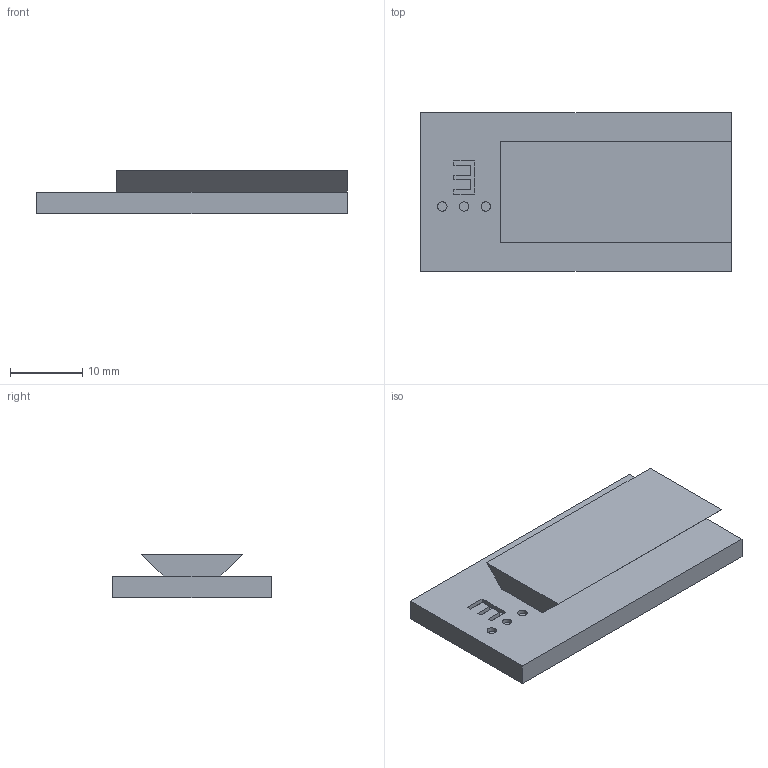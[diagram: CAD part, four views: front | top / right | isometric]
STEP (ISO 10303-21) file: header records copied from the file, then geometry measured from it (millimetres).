
FILE_DESCRIPTION(('Open CASCADE Model'),'2;1');
FILE_NAME('Open CASCADE Shape Model','2026-09-13T15:34:21',('Author'),( 'Open CASCADE'),'Open CASCADE STEP processor 7.9','build123d', 'Unknown');
FILE_SCHEMA(('AUTOMOTIVE_DESIGN { 1 0 10303 214 1 1 1 1 }'));
Length unit declared in the file: millimetre
Products named in the file (1): COMPOUND
Bounding box: 43 x 22 x 6 mm (x, y, z)
Volume: 3887.6 mm3; surface area: 2833.5 mm2
Topology: 1 solids, 1 shells, 37 faces, 93 edges, 62 vertices
Faces by surface type: plane 34, cylinder 3
Full cylindrical faces by diameter (mm): 1.3 x3
Entity records: 2255 total; most frequent: CARTESIAN_POINT 436, DIRECTION 304, LINE 210, VECTOR 210, ORIENTED_EDGE 186, PCURVE 186, DEFINITIONAL_REPRESENTATION 186, EDGE_CURVE 93
